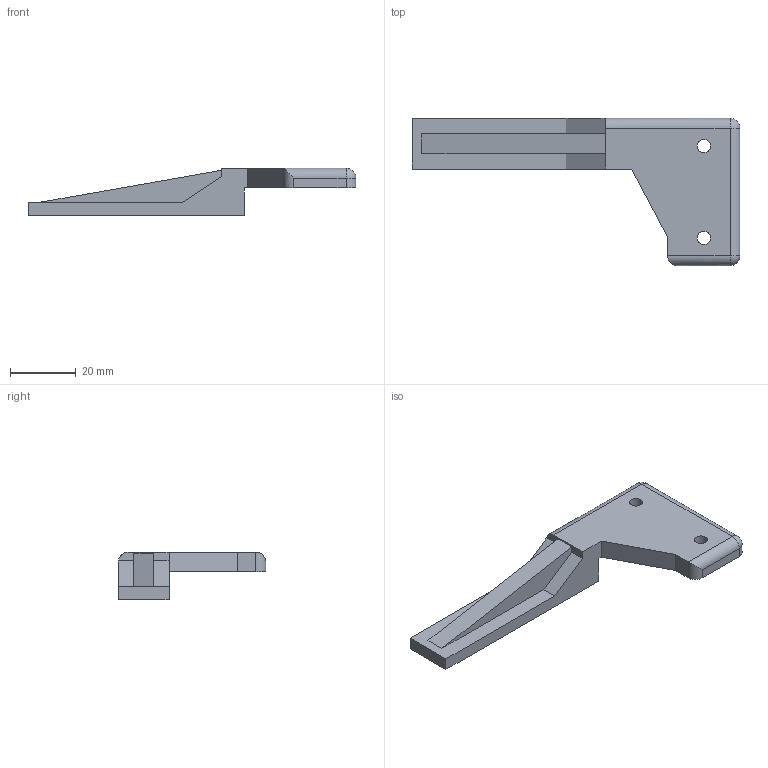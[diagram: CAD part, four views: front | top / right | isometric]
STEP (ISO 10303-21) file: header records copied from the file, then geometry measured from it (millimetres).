
FILE_DESCRIPTION(('HOOPS Exchange Step'),'2;1');
FILE_NAME('/private/var/mobile/Containers/Data/Application/6A221F3C-4013-4CF2-BF10-266E8049BE3B/tmp/export/temp_export.step','2019-09-11T18:19:33+03:00',('mobile'),('Shapr3D Limited'),'HOOPS Exchange 2018.1','Shapr3D','Authorized');
FILE_SCHEMA( ('AP203_CONFIGURATION_CONTROLLED_3D_DESIGN_OF_MECHANICAL_PARTS_AND_ASSEMBLIES_MIM_LF') );
Length unit declared in the file: millimetre
Products named in the file (1):  01
Bounding box: 100 x 45 x 14.5 mm (x, y, z)
Volume: 14712.3 mm3; surface area: 6846.3 mm2
Topology: 1 solids, 1 shells, 31 faces, 84 edges, 53 vertices
Faces by surface type: plane 21, cylinder 8, sphere 2
Full cylindrical faces by diameter (mm): 4 x2
Entity records: 988 total; most frequent: CARTESIAN_POINT 170, DIRECTION 164, ORIENTED_EDGE 164, EDGE_CURVE 82, VECTOR 62, LINE 62, VERTEX_POINT 53, AXIS2_PLACEMENT_3D 51
